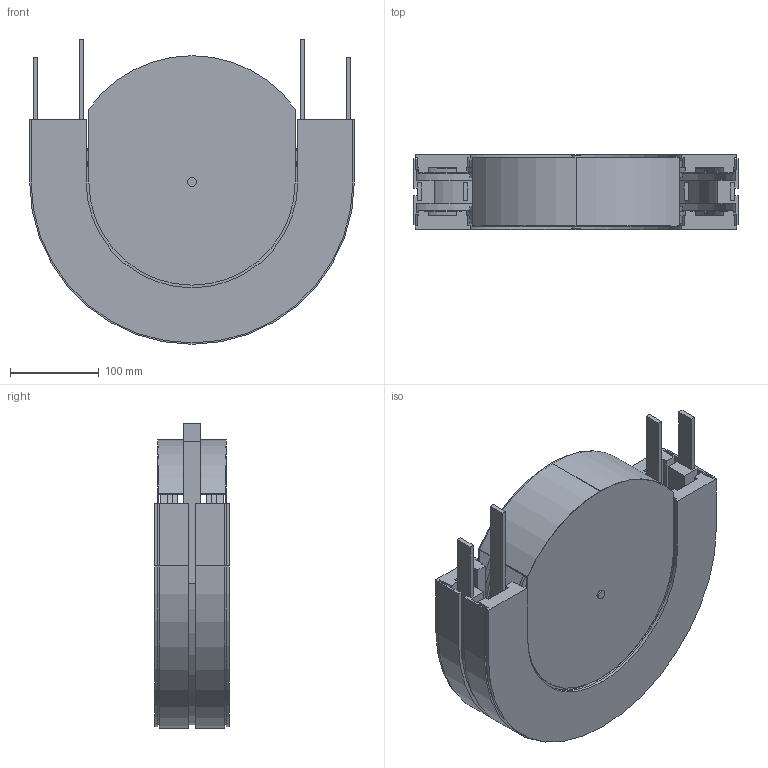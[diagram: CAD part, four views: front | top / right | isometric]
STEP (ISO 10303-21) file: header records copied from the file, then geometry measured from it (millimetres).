
FILE_DESCRIPTION (( 'STEP AP214' ), '1' );
FILE_NAME ('927721 CS65SL Draaischijfbocht 180 R150.STEP', '2017-12-21T08:33:13', ( '' ), ( '' ), 'SwSTEP 2.0', 'SolidWorks 2017', '' );
FILE_SCHEMA (( 'AUTOMOTIVE_DESIGN' ));
Length unit declared in the file: millimetre
Products named in the file (1): 927721 CS65SL Draaischijfbocht 180 R150
Bounding box: 365 x 84 x 342.5 mm (x, y, z)
Volume: 3503002.2 mm3; surface area: 838501.3 mm2
Topology: 3 solids, 3 shells, 210 faces, 564 edges, 368 vertices
Faces by surface type: plane 124, cylinder 80, cone 6
Entity records: 6620 total; most frequent: DIRECTION 1150, CARTESIAN_POINT 1143, ORIENTED_EDGE 1128, EDGE_CURVE 564, LINE 400, VECTOR 400, AXIS2_PLACEMENT_3D 375, VERTEX_POINT 368
